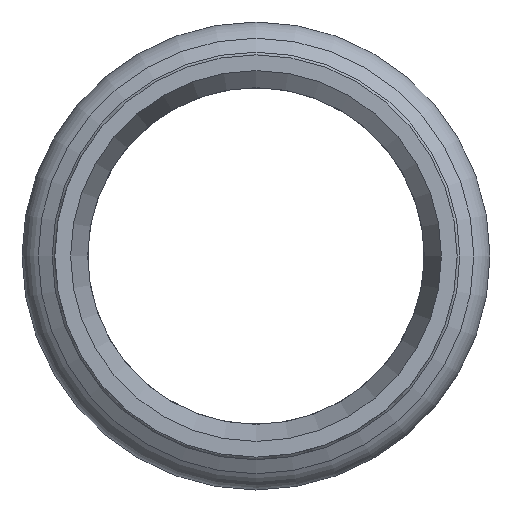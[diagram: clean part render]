
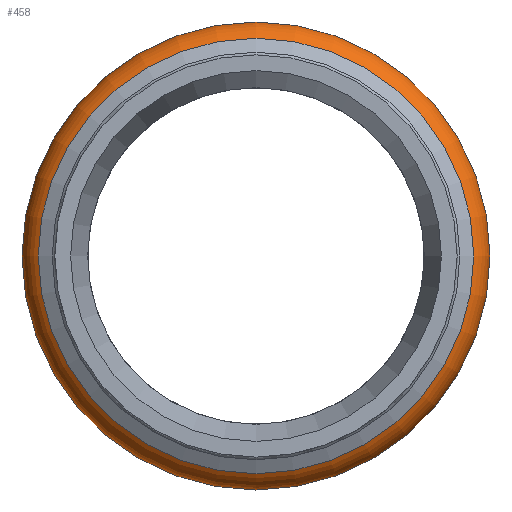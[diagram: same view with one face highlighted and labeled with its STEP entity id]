
A CAD part, left-side view. The second image highlights one B-rep face of the part: STEP entity #458.
In plain terms, the highlighted toroidal (fillet/blend) face has major radius 19.15 mm and minor radius 3.1 mm.
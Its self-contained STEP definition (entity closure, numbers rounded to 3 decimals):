
#276=CARTESIAN_POINT('',(-29.927,42.859,0.));
#277=VERTEX_POINT('',#276);
#278=CARTESIAN_POINT('',(-29.927,23.3,0.0));
#279=DIRECTION('',(1.0,0.0,0.0));
#280=DIRECTION('',(0.0,-1.0,0.0));
#281=AXIS2_PLACEMENT_3D('',#278,#279,#280);
#282=CIRCLE('',#281,19.559);
#283=EDGE_CURVE('',#277,#277,#282,.T.);
#420=CARTESIAN_POINT('',(-35.685,44.0,0.0));
#421=VERTEX_POINT('',#420);
#422=CARTESIAN_POINT('',(-35.685,23.3,0.0));
#423=DIRECTION('',(1.0,0.0,0.0));
#424=DIRECTION('',(0.0,1.0,0.0));
#425=AXIS2_PLACEMENT_3D('',#422,#423,#424);
#426=CIRCLE('',#425,20.7);
#427=EDGE_CURVE('',#421,#421,#426,.T.);
#447=CARTESIAN_POINT('',(-33.,23.3,0.0));
#448=DIRECTION('',(1.0,0.0,0.0));
#449=DIRECTION('',(0.0,0.0,-1.0));
#450=AXIS2_PLACEMENT_3D('',#447,#448,#449);
#451=TOROIDAL_SURFACE('',#450,19.15,3.1);
#452=ORIENTED_EDGE('',*,*,#427,.T.);
#453=EDGE_LOOP('',(#452));
#454=FACE_OUTER_BOUND('',#453,.T.);
#455=ORIENTED_EDGE('',*,*,#283,.F.);
#456=EDGE_LOOP('',(#455));
#457=FACE_BOUND('',#456,.T.);
#458=ADVANCED_FACE('',(#454,#457),#451,.T.);
